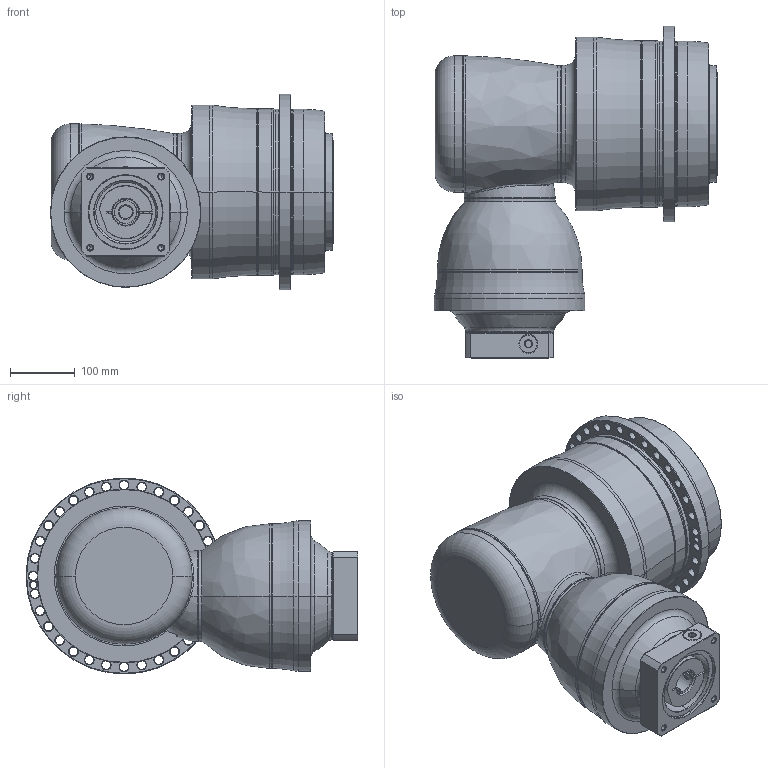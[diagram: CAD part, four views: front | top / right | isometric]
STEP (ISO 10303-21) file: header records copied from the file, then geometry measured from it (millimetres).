
FILE_DESCRIPTION((''),'2;1');
FILE_NAME('APK255_4ST_35-P0409800201_ASM','2018-10-04T',('D00080'),(''),'PRO/ENGINEER BY PARAMETRIC TECHNOLOGY CORPORATION, 2015240','PRO/ENGINEER BY PARAMETRIC TECHNOLOGY CORPORATION, 2015240','');
FILE_SCHEMA(('CONFIG_CONTROL_DESIGN'));
Length unit declared in the file: millimetre
Products named in the file (13): P1008600002; P1832700001; P0278701003; P0359701103; P1211700001; P1315600001; P1007601001; P1317610301; P0503800012; P0912503001; P0409800201; 21711422019; APK255_4ST_35-P0409800201_ASM
Assembly tree (12 placements, depth 2):
  APK255_4ST_35-P0409800201_ASM
    P1008600002
    P1832700001
    P0278701003
    P0359701103
    P1211700001
    P1315600001
    P1007601001
    P1317610301
    P0503800012
    P0912503001
    P0409800201
    21711422019
Bounding box: 436.5 x 511.5 x 302 mm (x, y, z)
Volume: 24109620.6 mm3; surface area: 1454682.6 mm2
Topology: 13 solids, 36 shells, 818 faces, 1905 edges, 1136 vertices
Faces by surface type: cylinder 311, cone 260, plane 122, torus 88, bspline 35, sphere 2
Entity records: 29963 total; most frequent: CARTESIAN_POINT 10605, DIRECTION 4459, ORIENTED_EDGE 3640, AXIS2_PLACEMENT_3D 1911, EDGE_CURVE 1867, VERTEX_POINT 1136, CIRCLE 1091, EDGE_LOOP 963
